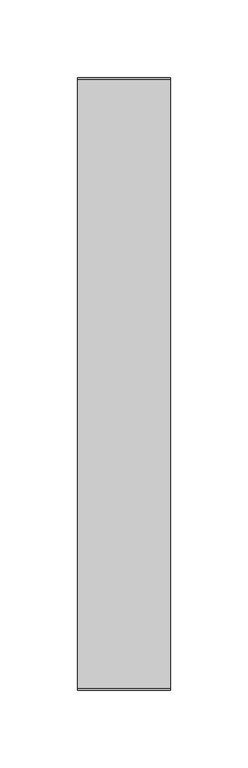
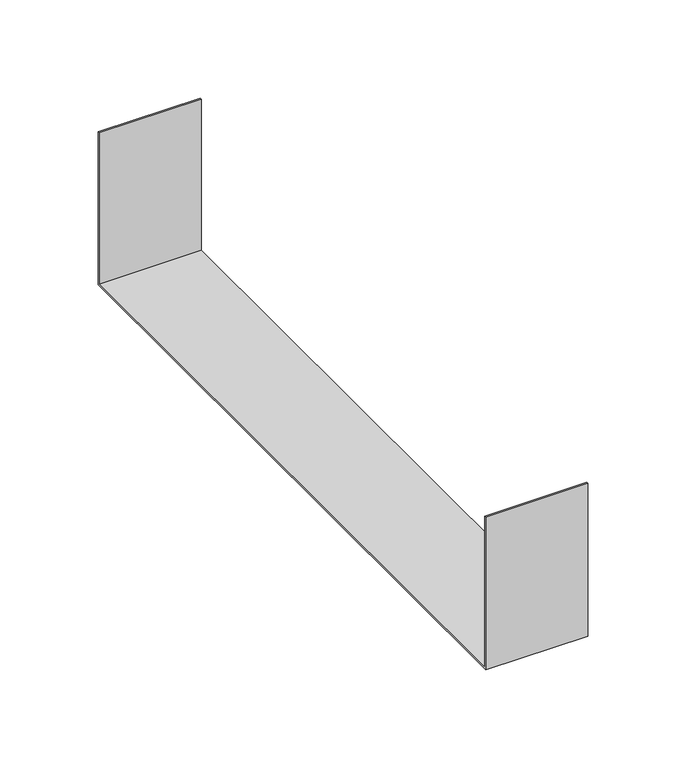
"""IFC4 building model written with IfcOpenShell, lengths in millimetres: cable carrier fitting geometry, JUCT_Juction-Basorcanal : Basorcanal JUCT H100."""

import ifcopenshell
import ifcopenshell.guid

model = None  # the IFC model being written
_history = None  # IfcOwnerHistory: only IFC2X3 demands one
_inside = {}  # id of a spatial element -> (the spatial element, [elements in it])
_under = {}  # id of a project, library or spatial element -> (it, [spatial elements below it])
_declared = {}  # id of a project -> (the project, [libraries it declares])
_typed = {}  # id of a type object -> (the type object, [elements of that type])
_made_of = {}  # id of a material, layer set ... -> (it, [elements and type objects made of it])


def new_model(schema):
    """Start an empty IFC model of exactly this schema.

    Asked for "IFC4X3", IfcOpenShell would pick the latest addendum, in which some entities
    have other attributes; the version numbers below select the first issue.
    IFC2X3 requires an IfcOwnerHistory on every rooted entity: one is made here for all.
    """
    global model, _history
    if schema == "IFC4X3":
        model = ifcopenshell.file(schema_version=(4, 3, 0, 0))
    else:
        model = ifcopenshell.file(schema=schema)
    _inside.clear()
    _under.clear()
    _declared.clear()
    _typed.clear()
    _made_of.clear()
    _history = None
    if model.schema == "IFC2X3":
        org = make("IfcOrganization", Name="unknown")
        user = make(
            "IfcPersonAndOrganization",
            ThePerson=make("IfcPerson", FamilyName="unknown"),
            TheOrganization=org,
        )
        app = make(
            "IfcApplication",
            ApplicationDeveloper=org,
            Version="unknown",
            ApplicationFullName="unknown",
            ApplicationIdentifier="unknown",
        )
        _history = make(
            "IfcOwnerHistory",
            OwningUser=user,
            OwningApplication=app,
            ChangeAction="ADDED",
            CreationDate=0,
        )
    return model


def make(cls, **values):
    """One entity of the class cls with the attributes given. An attribute that is None is left unset."""
    return model.create_entity(
        cls, **{name: value for name, value in values.items() if value is not None}
    )


def rooted(cls, **values):
    """An entity with a GlobalId (a new one), such as an element, a storey or a relation."""
    return make(cls, GlobalId=ifcopenshell.guid.new(), OwnerHistory=_history, **values)


def si_unit(unit_type, name, prefix=None):
    """IfcSIUnit, for example si_unit("LENGTHUNIT", "METRE", prefix="MILLI")."""
    return make("IfcSIUnit", UnitType=unit_type, Prefix=prefix, Name=name)


def assignment(units):
    """IfcUnitAssignment: the units of a project."""
    return None if units is None else make("IfcUnitAssignment", Units=units)


def point(xyz):
    """IfcCartesianPoint."""
    return None if xyz is None else make("IfcCartesianPoint", Coordinates=xyz)


def direction(xyz):
    """IfcDirection."""
    return None if xyz is None else make("IfcDirection", DirectionRatios=xyz)


def frame(location, z_axis=None, x_axis=None):
    """IfcAxis2Placement3D, a coordinate frame: its origin and axes. An axis left out is left unset."""
    return make(
        "IfcAxis2Placement3D",
        Location=point(location),
        Axis=direction(z_axis),
        RefDirection=direction(x_axis),
    )


def origin():
    """The frame at (0, 0, 0) with its axes left unset."""
    return frame((0.0, 0.0, 0.0))


def place(relative_to, where):
    """IfcLocalPlacement: puts the frame where relative to a parent placement (None: the world)."""
    return make(
        "IfcLocalPlacement", PlacementRelTo=relative_to, RelativePlacement=where
    )


def context(
    kind, dimensions, precision=None, world=None, true_north=None, identifier=None
):
    """IfcGeometricRepresentationContext, for example the 3D "Model" context."""
    return make(
        "IfcGeometricRepresentationContext",
        ContextIdentifier=identifier,
        ContextType=kind,
        CoordinateSpaceDimension=dimensions,
        Precision=precision,
        WorldCoordinateSystem=world,
        TrueNorth=true_north,
    )


def project(units=None, contexts=None):
    """IfcProject with its units and contexts."""
    return rooted(
        "IfcProject",
        Name="project",
        RepresentationContexts=contexts,
        UnitsInContext=assignment(units),
    )


def spatial(cls, under=None, at=None, **own):
    """A site, building, storey or space (cls), placed at a placement, below another one or the project."""
    s = rooted(cls, ObjectPlacement=at, **own)
    if under is not None:
        _under.setdefault(under.id(), (under, []))[1].append(s)
    return s


def polyline(points):
    """IfcPolyline through the points."""
    return make("IfcPolyline", Points=[point(p) for p in points])


def outline(outer, holes=None, kind="AREA"):
    """IfcArbitraryClosedProfileDef: a profile drawn as a closed curve; with holes, ...WithVoids."""
    if holes is None:
        return make("IfcArbitraryClosedProfileDef", ProfileType=kind, OuterCurve=outer)
    return make(
        "IfcArbitraryProfileDefWithVoids",
        ProfileType=kind,
        OuterCurve=outer,
        InnerCurves=holes,
    )


def extrude(swept, where, along, depth):
    """IfcExtrudedAreaSolid: the profile swept, set in the frame where, extruded along a direction by depth."""
    return make(
        "IfcExtrudedAreaSolid",
        SweptArea=swept,
        Position=where,
        ExtrudedDirection=direction(along),
        Depth=depth,
    )


def shape(context_of_items, identifier, shape_type, items):
    """IfcShapeRepresentation: the items that make up one representation, for example the "Body"."""
    return make(
        "IfcShapeRepresentation",
        ContextOfItems=context_of_items,
        RepresentationIdentifier=identifier,
        RepresentationType=shape_type,
        Items=items,
    )


def source(mapping_origin, context_of_items, identifier, shape_type, items):
    """IfcRepresentationMap: a shape defined once, which mapped items show again and again."""
    return make(
        "IfcRepresentationMap",
        MappingOrigin=mapping_origin,
        MappedRepresentation=shape(context_of_items, identifier, shape_type, items),
    )


def transform(
    local_origin,
    x_axis=None,
    y_axis=None,
    z_axis=None,
    scale=None,
    scale2=None,
    scale3=None,
    uniform=True,
):
    """IfcCartesianTransformationOperator3D, or its non-uniform kind. x_axis, y_axis, z_axis: its Axis1, 2, 3."""
    if uniform:
        return make(
            "IfcCartesianTransformationOperator3D",
            Axis1=direction(x_axis),
            Axis2=direction(y_axis),
            LocalOrigin=point(local_origin),
            Scale=scale,
            Axis3=direction(z_axis),
        )
    return make(
        "IfcCartesianTransformationOperator3DnonUniform",
        Axis1=direction(x_axis),
        Axis2=direction(y_axis),
        LocalOrigin=point(local_origin),
        Scale=scale,
        Axis3=direction(z_axis),
        Scale2=scale2,
        Scale3=scale3,
    )


def mapped(mapping_source, mapping_target):
    """IfcMappedItem: shows the shape of a source again, moved by a transform."""
    return make(
        "IfcMappedItem", MappingSource=mapping_source, MappingTarget=mapping_target
    )


def made_of(thing, what):
    """Note that an element or type object is made of a material, layer set ...; save() writes the relation."""
    if what is not None:
        _made_of.setdefault(what.id(), (what, []))[1].append(thing)
    return thing


def element(
    cls,
    number,
    at=None,
    inside=None,
    cuts=None,
    type_object=None,
    material=None,
    context=None,
    identifier="Body",
    shape_type=None,
    held_by="IfcProductDefinitionShape",
    body=None,
    shapes=None,
    **own,
):
    """One element of the class cls, such as IfcWall. Its Tag is "e" and its number.

    at: its placement. inside: the storey or other place that contains it. cuts: it is an
    opening in that element (IfcRelVoidsElement). A single representation is given by context,
    identifier, shape_type and body (its items); several are given by shapes. held_by: the class
    of the entity that holds the representations. save() writes the other relations.
    """
    e = rooted(cls, Tag="e%d" % number, ObjectPlacement=at, **own)
    if body is not None:
        shapes = [shape(context, identifier, shape_type, body)]
    if shapes is not None:
        e.Representation = make(held_by, Representations=shapes)
    if inside is not None:
        _inside.setdefault(inside.id(), (inside, []))[1].append(e)
    if cuts is not None:
        rooted(
            "IfcRelVoidsElement", RelatingBuildingElement=cuts, RelatedOpeningElement=e
        )
    if type_object is not None:
        _typed.setdefault(type_object.id(), (type_object, []))[1].append(e)
    return made_of(e, material)


def aggregate(whole, parts):
    """IfcRelAggregates: a whole, such as a stair, and the parts it consists of."""
    return rooted("IfcRelAggregates", RelatingObject=whole, RelatedObjects=parts)


def save(model, path):
    """Write the relations noted so far, then the file.

    IfcRelAggregates (storeys below a building ...), IfcRelContainedInSpatialStructure (elements
    in a storey), IfcRelDefinesByType, IfcRelAssociatesMaterial and IfcRelDeclares: one each for
    every whole, place, type object, material and project.
    """
    for whole, parts in _under.values():
        aggregate(whole, parts)
    for where, things in _inside.values():
        rooted(
            "IfcRelContainedInSpatialStructure",
            RelatedElements=things,
            RelatingStructure=where,
        )
    for kind, things in _typed.values():
        rooted("IfcRelDefinesByType", RelatedObjects=things, RelatingType=kind)
    for what, things in _made_of.values():
        rooted("IfcRelAssociatesMaterial", RelatedObjects=things, RelatingMaterial=what)
    for by, libraries in _declared.values():
        rooted("IfcRelDeclares", RelatingContext=by, RelatedDefinitions=libraries)
    model.write(path)


def cable_carrier_fitting_0468ddaf(model_context):
    return source(origin(), model_context, "Body", "SweptSolid", [
        extrude(outline(polyline([(-197.5, -47.5), (-197.5, 47.5), (-196.5, 47.5), (-196.5, -46.5), (196.5, -46.5), (196.5, 47.5), (197.5, 47.5), (197.5, -47.5), (-197.5, -47.5)])), frame((0.0, 0.0, 0.0), z_axis=(1.0, 0.0, 0.0), x_axis=(0.0, 1.0, 0.0)), (0.0, 0.0, 1.0), 60.0),
    ])


if __name__ == "__main__":
    model = new_model("IFC4")
    model_context = context("Model", 3, world=origin())
    ifc_project = project(units=[si_unit("LENGTHUNIT", "METRE", prefix="MILLI")], contexts=[model_context])
    site = spatial("IfcSite", under=ifc_project)
    building = spatial("IfcBuilding", under=site)
    placement = place(None, origin())
    cable_carrier_fitting_shape = cable_carrier_fitting_0468ddaf(model_context)
    element("IfcCableCarrierFitting", 1, ObjectType="JUCT_Juction-Basorcanal : Basorcanal JUCT H100", at=placement, inside=building, context=model_context, shape_type="MappedRepresentation", body=[
        mapped(cable_carrier_fitting_shape, transform((0.0, 0.0, 0.0), x_axis=(1.0, 0.0, 0.0), y_axis=(0.0, 1.0, 0.0), z_axis=(0.0, 0.0, 1.0))),
    ])
    save(model, "model.ifc")
